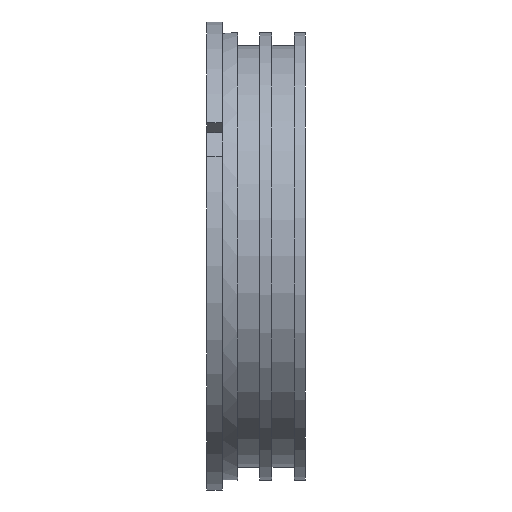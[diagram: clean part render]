
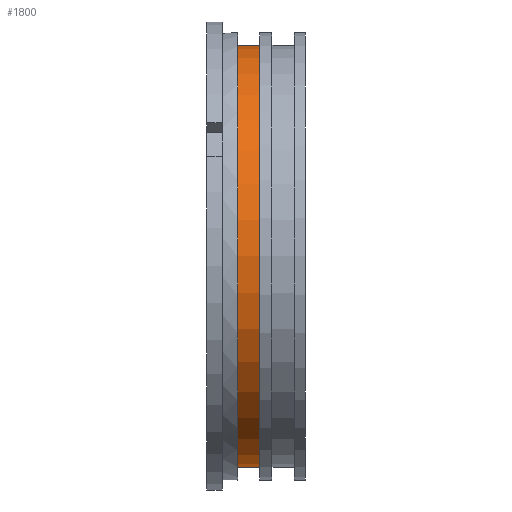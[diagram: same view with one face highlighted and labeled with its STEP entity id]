
A CAD part, front view. The second image highlights one B-rep face of the part: STEP entity #1800.
In plain terms, the highlighted cylindrical face has radius 34.295 mm (diameter 68.59 mm), a full revolution.
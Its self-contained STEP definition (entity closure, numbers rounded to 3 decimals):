
#1710 = PLANE('',#1711);
#1711 = AXIS2_PLACEMENT_3D('',#1712,#1713,#1714);
#1712 = CARTESIAN_POINT('',(-22.9,0.,0.)
  );
#1713 = DIRECTION('',(1.,0.,0.));
#1714 = DIRECTION('',(-0.,0.,1.));
#1772 = EDGE_CURVE('',#1773,#1773,#1775,.T.);
#1773 = VERTEX_POINT('',#1774);
#1774 = CARTESIAN_POINT('',(-22.9,34.295,0.));
#1775 = SURFACE_CURVE('',#1776,(#1781,#1788),.PCURVE_S1.);
#1776 = CIRCLE('',#1777,34.295);
#1777 = AXIS2_PLACEMENT_3D('',#1778,#1779,#1780);
#1778 = CARTESIAN_POINT('',(-22.9,0.,0.)
  );
#1779 = DIRECTION('',(1.,0.,0.));
#1780 = DIRECTION('',(0.,1.,0.));
#1781 = PCURVE('',#1710,#1782);
#1782 = DEFINITIONAL_REPRESENTATION('',(#1783),#1787);
#1783 = CIRCLE('',#1784,34.295);
#1784 = AXIS2_PLACEMENT_2D('',#1785,#1786);
#1785 = CARTESIAN_POINT('',(0.,0.));
#1786 = DIRECTION('',(0.,-1.));
#1787 = ( GEOMETRIC_REPRESENTATION_CONTEXT(2) 
PARAMETRIC_REPRESENTATION_CONTEXT() REPRESENTATION_CONTEXT('2D SPACE',''
  ) );
#1788 = PCURVE('',#1789,#1794);
#1789 = CYLINDRICAL_SURFACE('',#1790,34.295);
#1790 = AXIS2_PLACEMENT_3D('',#1791,#1792,#1793);
#1791 = CARTESIAN_POINT('',(-22.9,0.,0.)
  );
#1792 = DIRECTION('',(-1.,-0.,-0.));
#1793 = DIRECTION('',(0.,1.,0.));
#1794 = DEFINITIONAL_REPRESENTATION('',(#1795),#1799);
#1795 = LINE('',#1796,#1797);
#1796 = CARTESIAN_POINT('',(-0.,0.));
#1797 = VECTOR('',#1798,1.);
#1798 = DIRECTION('',(-1.,0.));
#1799 = ( GEOMETRIC_REPRESENTATION_CONTEXT(2) 
PARAMETRIC_REPRESENTATION_CONTEXT() REPRESENTATION_CONTEXT('2D SPACE',''
  ) );
#1800 = ADVANCED_FACE('',(#1801),#1789,.T.);
#1801 = FACE_BOUND('',#1802,.F.);
#1802 = EDGE_LOOP('',(#1803,#1826,#1853,#1854));
#1803 = ORIENTED_EDGE('',*,*,#1804,.T.);
#1804 = EDGE_CURVE('',#1773,#1805,#1807,.T.);
#1805 = VERTEX_POINT('',#1806);
#1806 = CARTESIAN_POINT('',(-19.3,34.295,0.));
#1807 = SEAM_CURVE('',#1808,(#1812,#1819),.PCURVE_S1.);
#1808 = LINE('',#1809,#1810);
#1809 = CARTESIAN_POINT('',(-22.9,34.295,0.));
#1810 = VECTOR('',#1811,1.);
#1811 = DIRECTION('',(1.,0.,0.));
#1812 = PCURVE('',#1789,#1813);
#1813 = DEFINITIONAL_REPRESENTATION('',(#1814),#1818);
#1814 = LINE('',#1815,#1816);
#1815 = CARTESIAN_POINT('',(-0.,0.));
#1816 = VECTOR('',#1817,1.);
#1817 = DIRECTION('',(-0.,-1.));
#1818 = ( GEOMETRIC_REPRESENTATION_CONTEXT(2) 
PARAMETRIC_REPRESENTATION_CONTEXT() REPRESENTATION_CONTEXT('2D SPACE',''
  ) );
#1819 = PCURVE('',#1789,#1820);
#1820 = DEFINITIONAL_REPRESENTATION('',(#1821),#1825);
#1821 = LINE('',#1822,#1823);
#1822 = CARTESIAN_POINT('',(-6.283,0.));
#1823 = VECTOR('',#1824,1.);
#1824 = DIRECTION('',(-0.,-1.));
#1825 = ( GEOMETRIC_REPRESENTATION_CONTEXT(2) 
PARAMETRIC_REPRESENTATION_CONTEXT() REPRESENTATION_CONTEXT('2D SPACE',''
  ) );
#1826 = ORIENTED_EDGE('',*,*,#1827,.T.);
#1827 = EDGE_CURVE('',#1805,#1805,#1828,.T.);
#1828 = SURFACE_CURVE('',#1829,(#1834,#1841),.PCURVE_S1.);
#1829 = CIRCLE('',#1830,34.295);
#1830 = AXIS2_PLACEMENT_3D('',#1831,#1832,#1833);
#1831 = CARTESIAN_POINT('',(-19.3,0.,0.)
  );
#1832 = DIRECTION('',(1.,0.,0.));
#1833 = DIRECTION('',(0.,1.,0.));
#1834 = PCURVE('',#1789,#1835);
#1835 = DEFINITIONAL_REPRESENTATION('',(#1836),#1840);
#1836 = LINE('',#1837,#1838);
#1837 = CARTESIAN_POINT('',(-0.,-3.6));
#1838 = VECTOR('',#1839,1.);
#1839 = DIRECTION('',(-1.,0.));
#1840 = ( GEOMETRIC_REPRESENTATION_CONTEXT(2) 
PARAMETRIC_REPRESENTATION_CONTEXT() REPRESENTATION_CONTEXT('2D SPACE',''
  ) );
#1841 = PCURVE('',#1842,#1847);
#1842 = PLANE('',#1843);
#1843 = AXIS2_PLACEMENT_3D('',#1844,#1845,#1846);
#1844 = CARTESIAN_POINT('',(-19.3,0.,0.)
  );
#1845 = DIRECTION('',(1.,0.,0.));
#1846 = DIRECTION('',(-0.,0.,1.));
#1847 = DEFINITIONAL_REPRESENTATION('',(#1848),#1852);
#1848 = CIRCLE('',#1849,34.295);
#1849 = AXIS2_PLACEMENT_2D('',#1850,#1851);
#1850 = CARTESIAN_POINT('',(0.,0.));
#1851 = DIRECTION('',(0.,-1.));
#1852 = ( GEOMETRIC_REPRESENTATION_CONTEXT(2) 
PARAMETRIC_REPRESENTATION_CONTEXT() REPRESENTATION_CONTEXT('2D SPACE',''
  ) );
#1853 = ORIENTED_EDGE('',*,*,#1804,.F.);
#1854 = ORIENTED_EDGE('',*,*,#1772,.F.);
